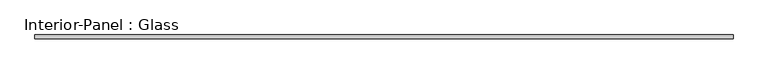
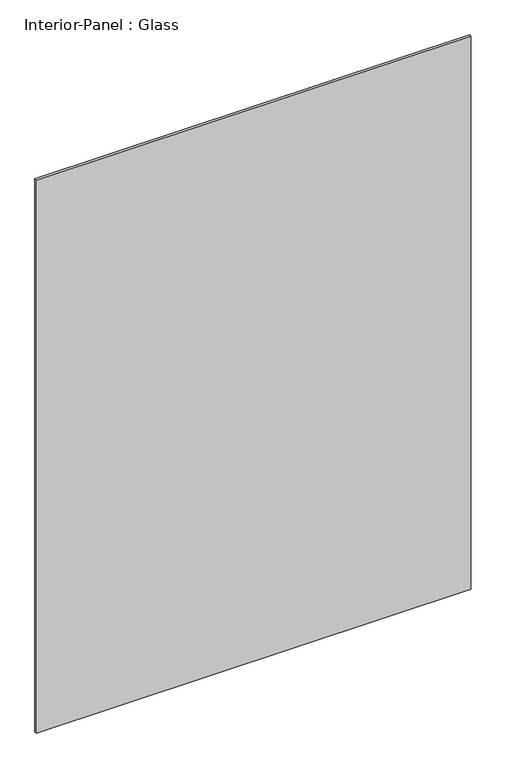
"""IFC4 building model written with IfcOpenShell, lengths in millimetres: plate geometry, Interior-Panel : Glass."""

from ifc_helpers import new_model, si_unit, origin, origin_with_axes, place, context, project, spatial, polyline, outline, extrude, source, transform, mapped, element, save


def interior_panel_glass_336ad03b(model_context):
    return source(origin(), model_context, "Body", "SweptSolid", [
        extrude(outline(polyline([(966.4530876, 50.0), (966.4530876, 40.0), (-966.4530876, 40.0), (-966.4530876, 50.0), (966.4530876, 50.0)])), origin_with_axes(), (0.0, 0.0, 1.0), 2600.0),
    ])


if __name__ == "__main__":
    model = new_model("IFC4")
    model_context = context("Model", 3, world=origin())
    ifc_project = project(units=[si_unit("LENGTHUNIT", "METRE", prefix="MILLI")], contexts=[model_context])
    site = spatial("IfcSite", under=ifc_project)
    building = spatial("IfcBuilding", under=site)
    placement = place(None, origin())
    interior_panel_glass_shape = interior_panel_glass_336ad03b(model_context)
    element("IfcPlate", 1, ObjectType="Interior-Panel : Glass", at=placement, inside=building, context=model_context, shape_type="MappedRepresentation", body=[
        mapped(interior_panel_glass_shape, transform((0.0, 0.0, 0.0), x_axis=(1.0, 0.0, 0.0), y_axis=(0.0, 1.0, 0.0), z_axis=(0.0, 0.0, 1.0))),
    ])
    save(model, "model.ifc")
